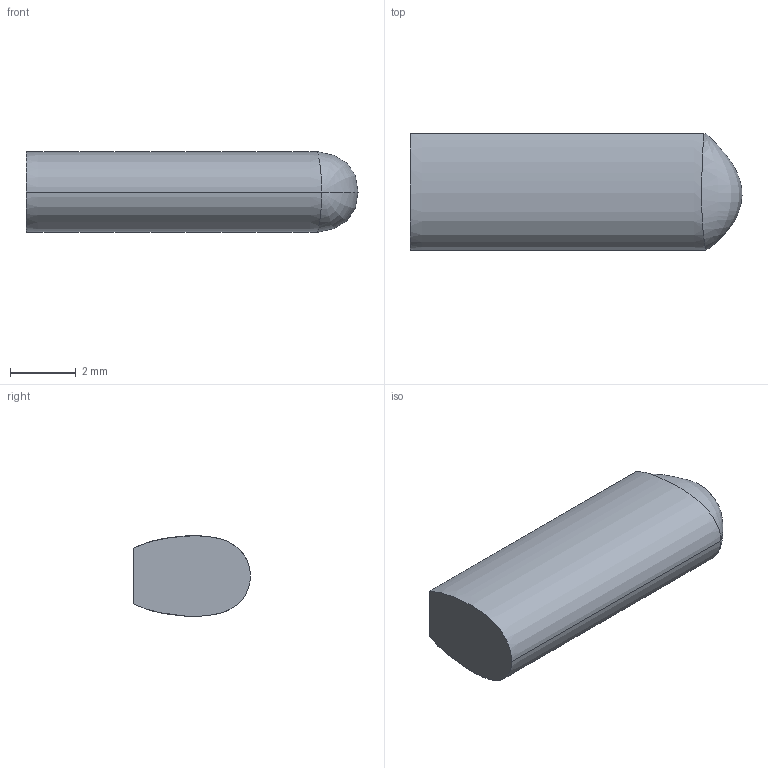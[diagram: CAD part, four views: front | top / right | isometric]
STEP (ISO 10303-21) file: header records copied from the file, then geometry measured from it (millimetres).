
FILE_DESCRIPTION((''),'1');
FILE_NAME('ELEK-ST12-08R','2001-03-30T',('rgoetz'),(''),'PRO/ENGINEER BY PARAMETRIC TECHNOLOGY CORPORATION, 2000350','PRO/ENGINEER BY PARAMETRIC TECHNOLOGY CORPORATION, 2000350','');
FILE_SCHEMA(('CONFIG_CONTROL_DESIGN'));
Length unit declared in the file: millimetre
Products named in the file (1): ELEK-ST12-08R
Bounding box: 10.1 x 3.55 x 2.46 mm (x, y, z)
Volume: 72.1 mm3; surface area: 110.7 mm2
Topology: 1 solids, 1 shells, 6 faces, 13 edges, 7 vertices
Faces by surface type: plane 2, extrusion 2, bspline 2
Entity records: 604 total; most frequent: CARTESIAN_POINT 463, ORIENTED_EDGE 22, EDGE_CURVE 11, DIRECTION 10, B_SPLINE_CURVE_WITH_KNOTS 9, VERTEX_POINT 7, VECTOR 6, EDGE_LOOP 6
